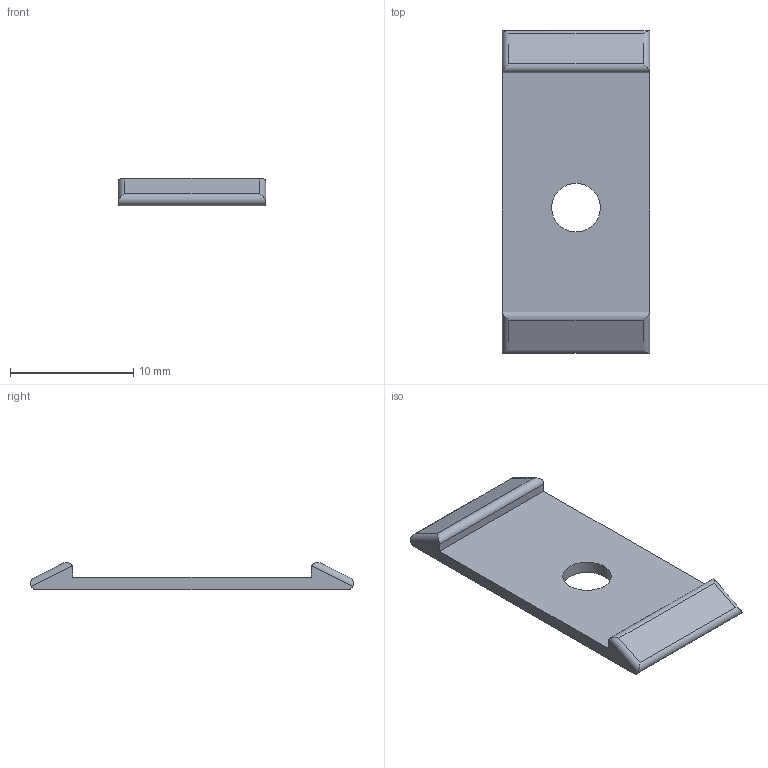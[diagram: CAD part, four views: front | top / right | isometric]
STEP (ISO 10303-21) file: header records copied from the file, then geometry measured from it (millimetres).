
FILE_DESCRIPTION(/* description */ (''),/* implementation_level */ '2;1');
FILE_NAME(/* name */ 'C:/Users/Ryan/Documents/AIO Robotics/CAD Files/BuckleFrontLeft.step',/* time_stamp */ '2017-02-04T20:48:02-08:00',/* author */ (''),/* organization */ (''),/* preprocessor_version */ 'ST-DEVELOPER v16.5',/* originating_system */ 'Autodesk Translation Framework v5.2.0.2920',/* authorisation */ '');
FILE_SCHEMA (('AUTOMOTIVE_DESIGN { 1 0 10303 214 3 1 1 }'));
Length unit declared in the file: inch
Products named in the file (1): BuckleFL v9
Bounding box: 11.94 x 26.18 x 2.23 mm (x, y, z)
Volume: 353.5 mm3; surface area: 715.9 mm2
Topology: 1 solids, 1 shells, 17 faces, 45 edges, 30 vertices
Faces by surface type: cylinder 9, plane 8
Full cylindrical faces by diameter (mm): 3.937 x1
Entity records: 560 total; most frequent: DIRECTION 98, CARTESIAN_POINT 92, ORIENTED_EDGE 88, EDGE_CURVE 44, AXIS2_PLACEMENT_3D 36, VERTEX_POINT 30, LINE 26, VECTOR 26
